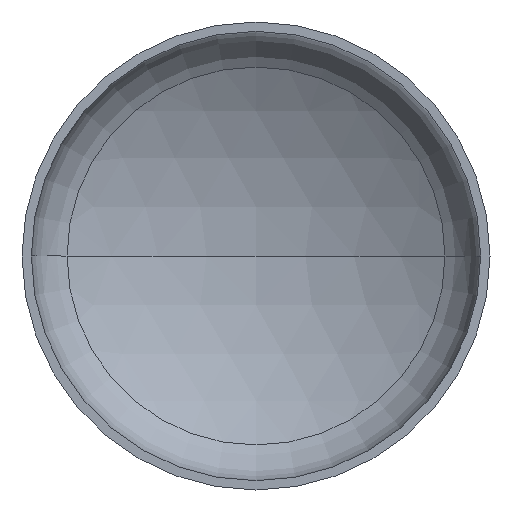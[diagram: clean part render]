
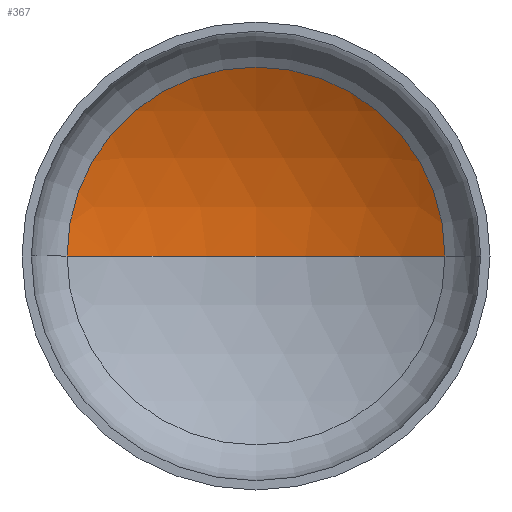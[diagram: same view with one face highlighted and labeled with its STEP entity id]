
A CAD part, front view. The second image highlights one B-rep face of the part: STEP entity #367.
In plain terms, the highlighted spherical face has radius 2080 mm.
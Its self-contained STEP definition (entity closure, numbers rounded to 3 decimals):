
#11 = ORIENTED_EDGE ( 'NONE', *, *, #352, .T. ) ;
#15 = VERTEX_POINT ( 'NONE', #257 ) ;
#21 = AXIS2_PLACEMENT_3D ( 'NONE', #378, #213, #258 ) ;
#24 = ORIENTED_EDGE ( 'NONE', *, *, #353, .T. ) ;
#27 = AXIS2_PLACEMENT_3D ( 'NONE', #180, #393, #329 ) ;
#32 = AXIS2_PLACEMENT_3D ( 'NONE', #398, #360, #209 ) ;
#33 = AXIS2_PLACEMENT_3D ( 'NONE', #163, #156, #159 ) ;
#60 = VERTEX_POINT ( 'NONE', #297 ) ;
#71 = ORIENTED_EDGE ( 'NONE', *, *, #362, .F. ) ;
#155 = SPHERICAL_SURFACE ( 'NONE', #21, 2080. ) ;
#156 = DIRECTION ( 'NONE',  ( 0., -1., 0. ) ) ;
#157 = EDGE_LOOP ( 'NONE', ( #71, #24, #11 ) ) ;
#159 = DIRECTION ( 'NONE',  ( 1., 0., 0. ) ) ;
#163 = CARTESIAN_POINT ( 'NONE',  ( 0., 465.303, 0. ) ) ;
#166 = CIRCLE ( 'NONE', #32, 2080. ) ;
#173 = CARTESIAN_POINT ( 'NONE',  ( 0., 749.726, 0. ) ) ;
#180 = CARTESIAN_POINT ( 'NONE',  ( 0., -1330.274, 0. ) ) ;
#209 = DIRECTION ( 'NONE',  ( -1., 0., 0. ) ) ;
#213 = DIRECTION ( 'NONE',  ( 0., 0., -1. ) ) ;
#257 = CARTESIAN_POINT ( 'NONE',  ( -1049.905, 465.303, 0. ) ) ;
#258 = DIRECTION ( 'NONE',  ( -1., 0., 0. ) ) ;
#287 = CIRCLE ( 'NONE', #27, 2080. ) ;
#297 = CARTESIAN_POINT ( 'NONE',  ( 1049.905, 465.303, 0. ) ) ;
#329 = DIRECTION ( 'NONE',  ( 1., 0., 0. ) ) ;
#351 = VERTEX_POINT ( 'NONE', #173 ) ;
#352 = EDGE_CURVE ( 'NONE', #60, #15, #371, .T. ) ;
#353 = EDGE_CURVE ( 'NONE', #351, #60, #166, .T. ) ;
#357 = FACE_OUTER_BOUND ( 'NONE', #157, .T. ) ;
#360 = DIRECTION ( 'NONE',  ( 0., 0., -1. ) ) ;
#362 = EDGE_CURVE ( 'NONE', #351, #15, #287, .T. ) ;
#367 = ADVANCED_FACE ( 'NONE', ( #357 ), #155, .F. ) ;
#371 = CIRCLE ( 'NONE', #33, 1049.905 ) ;
#378 = CARTESIAN_POINT ( 'NONE',  ( 0., -1330.274, 0. ) ) ;
#393 = DIRECTION ( 'NONE',  ( 0., 0., 1. ) ) ;
#398 = CARTESIAN_POINT ( 'NONE',  ( 0., -1330.274, 0. ) ) ;
